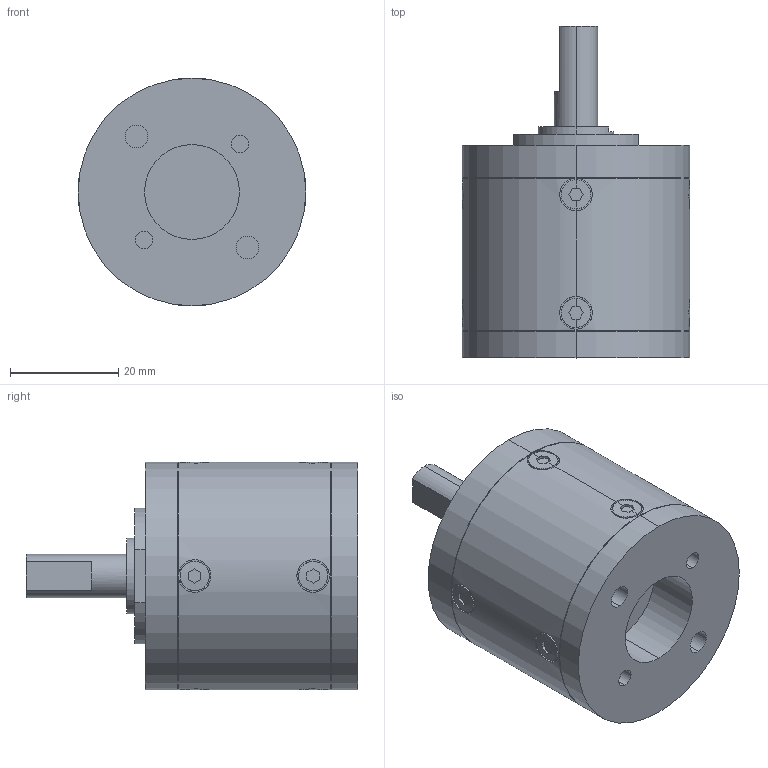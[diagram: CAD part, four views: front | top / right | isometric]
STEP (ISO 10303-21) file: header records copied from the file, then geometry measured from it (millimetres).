
FILE_DESCRIPTION (( 'STEP AP203' ), '1' );
FILE_NAME ('IG-42C-2stage.STEP', '2023-04-13T02:27:30', ( '' ), ( '' ), 'SwSTEP 2.0', 'SolidWorks 2019', '' );
FILE_SCHEMA (( 'CONFIG_CONTROL_DESIGN' ));
Length unit declared in the file: millimetre
Products named in the file (1): IG-42C-2stage
Bounding box: 42 x 61.2 x 42 mm (x, y, z)
Volume: 53155.8 mm3; surface area: 10150.2 mm2
Topology: 1 solids, 1 shells, 172 faces, 415 edges, 274 vertices
Faces by surface type: plane 93, cylinder 75, cone 4
Entity records: 6048 total; most frequent: CARTESIAN_POINT 2008, ORIENTED_EDGE 826, DIRECTION 813, EDGE_CURVE 413, AXIS2_PLACEMENT_3D 305, VERTEX_POINT 272, LINE 203, VECTOR 203
